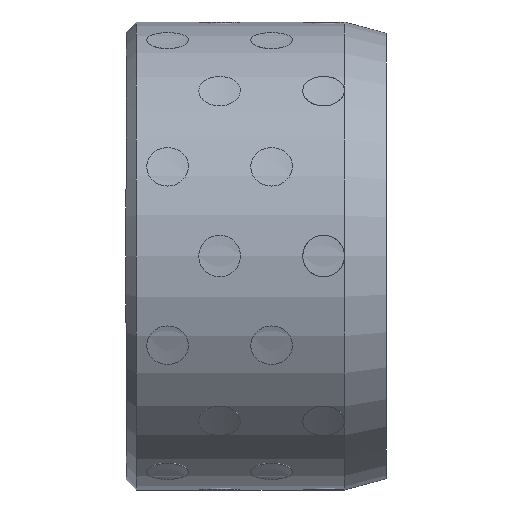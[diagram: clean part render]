
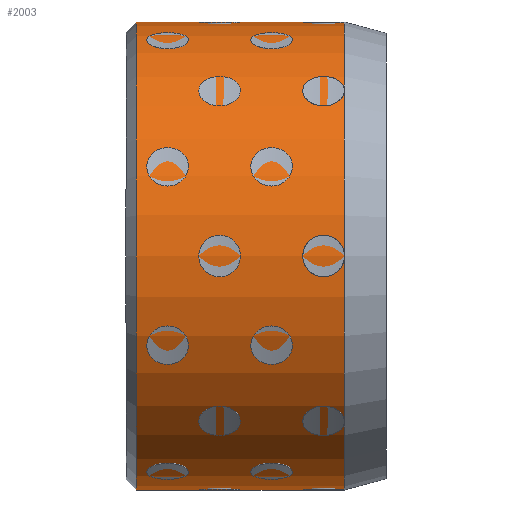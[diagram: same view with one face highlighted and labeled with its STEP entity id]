
A CAD part, left-side view. The second image highlights one B-rep face of the part: STEP entity #2003.
In plain terms, the highlighted cylindrical face has radius 22.5 mm (diameter 45 mm), a full revolution.
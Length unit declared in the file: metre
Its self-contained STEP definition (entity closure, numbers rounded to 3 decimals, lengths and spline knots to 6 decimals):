
#2003 = ADVANCED_FACE( '', ( #2145, #2146 ), #2147, .T. );
#2145 = FACE_OUTER_BOUND( '', #2449, .T. );
#2146 = FACE_OUTER_BOUND( '', #2450, .T. );
#2147 = CYLINDRICAL_SURFACE( '', #2451, 0.0225 );
#2449 = EDGE_LOOP( '', ( #2765 ) );
#2450 = EDGE_LOOP( '', ( #2766 ) );
#2451 = AXIS2_PLACEMENT_3D( '', #2767, #2768, #2769 );
#2765 = ORIENTED_EDGE( '', *, *, #3302, .T. );
#2766 = ORIENTED_EDGE( '', *, *, #3301, .F. );
#2767 = CARTESIAN_POINT( '', ( 0., 0., 0. ) );
#2768 = DIRECTION( '', ( 0., 1., 0. ) );
#2769 = DIRECTION( '', ( 0., 0., -1. ) );
#3301 = EDGE_CURVE( '', #3395, #3395, #3396, .T. );
#3302 = EDGE_CURVE( '', #3397, #3397, #3398, .T. );
#3395 = VERTEX_POINT( '', #3571 );
#3396 = CIRCLE( '', #3572, 0.0225 );
#3397 = VERTEX_POINT( '', #3573 );
#3398 = CIRCLE( '', #3574, 0.0225 );
#3571 = CARTESIAN_POINT( '', ( 0., 0.004, -0.0225 ) );
#3572 = AXIS2_PLACEMENT_3D( '', #7993, #7994, #7995 );
#3573 = CARTESIAN_POINT( '', ( 0., 0.024, -0.0225 ) );
#3574 = AXIS2_PLACEMENT_3D( '', #7996, #7997, #7998 );
#7993 = CARTESIAN_POINT( '', ( 0., 0.004, 0. ) );
#7994 = DIRECTION( '', ( 0., -1., 0. ) );
#7995 = DIRECTION( '', ( 0., 0., -1. ) );
#7996 = CARTESIAN_POINT( '', ( 0., 0.024, 0. ) );
#7997 = DIRECTION( '', ( 0., -1., 0. ) );
#7998 = DIRECTION( '', ( 0., 0., -1. ) );
